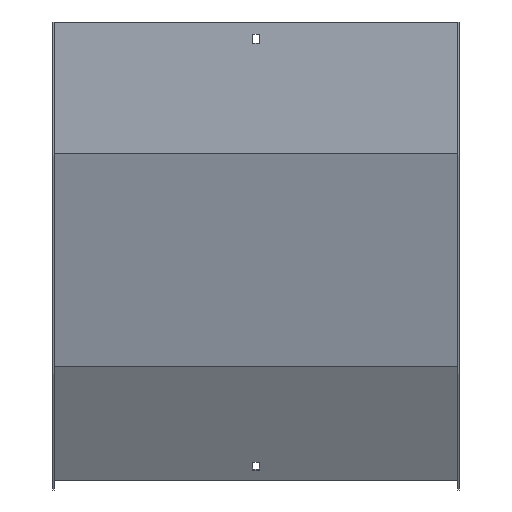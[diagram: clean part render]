
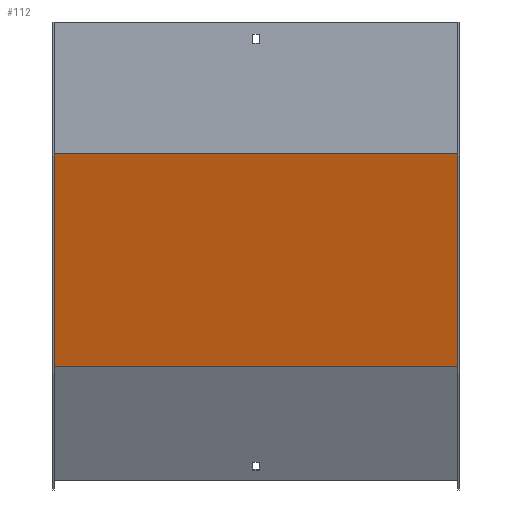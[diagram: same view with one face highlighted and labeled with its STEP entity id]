
A CAD part, front view. The second image highlights one B-rep face of the part: STEP entity #112.
In plain terms, the highlighted planar face has unit normal (0, -0.966, -0.259).
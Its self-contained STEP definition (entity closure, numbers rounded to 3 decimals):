
#18 = VERTEX_POINT ( 'NONE', #23 ) ;
#23 = CARTESIAN_POINT ( 'NONE',  ( 200., -1.5, -130.197 ) ) ;
#112 = ADVANCED_FACE ( 'NONE', ( #767 ), #728, .F. ) ;
#114 = EDGE_CURVE ( 'NONE', #424, #418, #771, .T. ) ;
#176 = CARTESIAN_POINT ( 'NONE',  ( -200., 55.284, -342.117 ) ) ;
#187 = VECTOR ( 'NONE', #459, 1000. ) ;
#195 = DIRECTION ( 'NONE',  ( 0., 0.259, -0.966 ) ) ;
#252 = CARTESIAN_POINT ( 'NONE',  ( 201.5, -1.449, -130.388 ) ) ;
#265 = CARTESIAN_POINT ( 'NONE',  ( 201.5, 55.284, -342.117 ) ) ;
#303 = ORIENTED_EDGE ( 'NONE', *, *, #114, .F. ) ;
#319 = CARTESIAN_POINT ( 'NONE',  ( 200., 55.284, -342.117 ) ) ;
#322 = EDGE_CURVE ( 'NONE', #325, #418, #327, .T. ) ;
#325 = VERTEX_POINT ( 'NONE', #473 ) ;
#327 = LINE ( 'NONE', #780, #759 ) ;
#374 = VECTOR ( 'NONE', #799, 1000. ) ;
#415 = EDGE_LOOP ( 'NONE', ( #779, #303, #463, #835 ) ) ;
#418 = VERTEX_POINT ( 'NONE', #176 ) ;
#424 = VERTEX_POINT ( 'NONE', #319 ) ;
#459 = DIRECTION ( 'NONE',  ( -1., 0., 0. ) ) ;
#463 = ORIENTED_EDGE ( 'NONE', *, *, #590, .F. ) ;
#473 = CARTESIAN_POINT ( 'NONE',  ( -200., -1.5, -130.197 ) ) ;
#524 = DIRECTION ( 'NONE',  ( 0., 0.259, -0.966 ) ) ;
#538 = DIRECTION ( 'NONE',  ( 0., 0.966, 0.259 ) ) ;
#588 = LINE ( 'NONE', #846, #842 ) ;
#590 = EDGE_CURVE ( 'NONE', #18, #424, #588, .T. ) ;
#639 = AXIS2_PLACEMENT_3D ( 'NONE', #252, #538, #662 ) ;
#662 = DIRECTION ( 'NONE',  ( 0., -0.259, 0.966 ) ) ;
#666 = CARTESIAN_POINT ( 'NONE',  ( 201.5, -1.5, -130.197 ) ) ;
#728 = PLANE ( 'NONE',  #639 ) ;
#759 = VECTOR ( 'NONE', #195, 1000. ) ;
#760 = EDGE_CURVE ( 'NONE', #18, #325, #795, .T. ) ;
#767 = FACE_OUTER_BOUND ( 'NONE', #415, .T. ) ;
#771 = LINE ( 'NONE', #265, #187 ) ;
#779 = ORIENTED_EDGE ( 'NONE', *, *, #322, .T. ) ;
#780 = CARTESIAN_POINT ( 'NONE',  ( -200., -33.949, -9.097 ) ) ;
#795 = LINE ( 'NONE', #666, #374 ) ;
#799 = DIRECTION ( 'NONE',  ( -1., 0., 0. ) ) ;
#835 = ORIENTED_EDGE ( 'NONE', *, *, #760, .T. ) ;
#842 = VECTOR ( 'NONE', #524, 1000. ) ;
#846 = CARTESIAN_POINT ( 'NONE',  ( 200., -33.949, -9.097 ) ) ;
